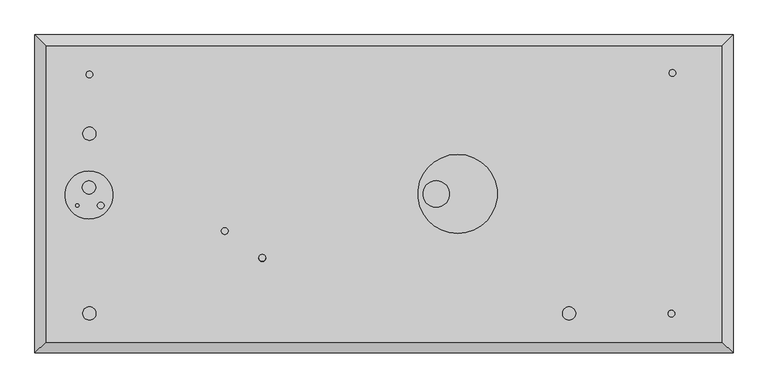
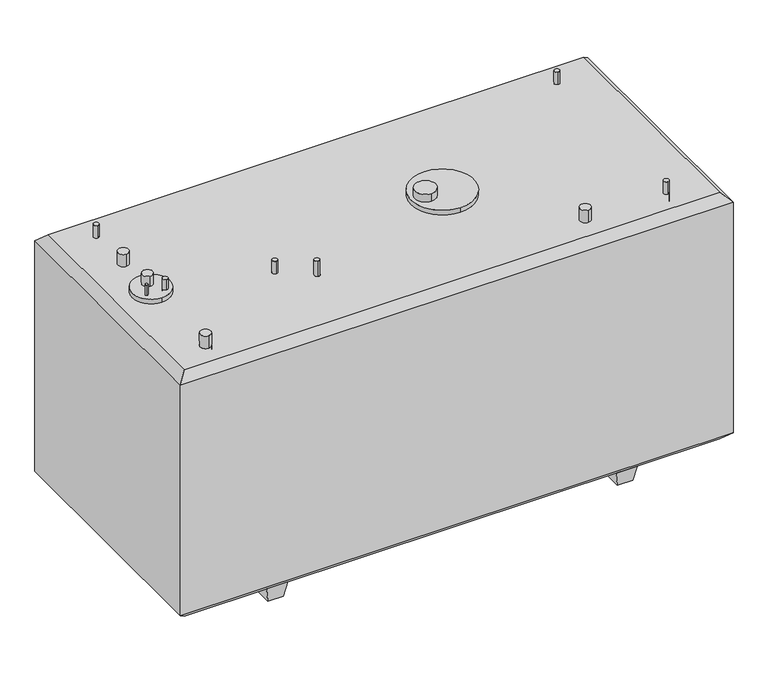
"""IFC4 building model written with IfcOpenShell, lengths in millimetres: proxy geometry, Convault Tank Family 88153044 : Convault Tank Family 88153044."""

import ifcopenshell
import ifcopenshell.guid

model = None  # the IFC model being written
_history = None  # IfcOwnerHistory: only IFC2X3 demands one
_inside = {}  # id of a spatial element -> (the spatial element, [elements in it])
_under = {}  # id of a project, library or spatial element -> (it, [spatial elements below it])
_declared = {}  # id of a project -> (the project, [libraries it declares])
_typed = {}  # id of a type object -> (the type object, [elements of that type])
_made_of = {}  # id of a material, layer set ... -> (it, [elements and type objects made of it])


def new_model(schema):
    """Start an empty IFC model of exactly this schema.

    Asked for "IFC4X3", IfcOpenShell would pick the latest addendum, in which some entities
    have other attributes; the version numbers below select the first issue.
    IFC2X3 requires an IfcOwnerHistory on every rooted entity: one is made here for all.
    """
    global model, _history
    if schema == "IFC4X3":
        model = ifcopenshell.file(schema_version=(4, 3, 0, 0))
    else:
        model = ifcopenshell.file(schema=schema)
    _inside.clear()
    _under.clear()
    _declared.clear()
    _typed.clear()
    _made_of.clear()
    _history = None
    if model.schema == "IFC2X3":
        org = make("IfcOrganization", Name="unknown")
        user = make(
            "IfcPersonAndOrganization",
            ThePerson=make("IfcPerson", FamilyName="unknown"),
            TheOrganization=org,
        )
        app = make(
            "IfcApplication",
            ApplicationDeveloper=org,
            Version="unknown",
            ApplicationFullName="unknown",
            ApplicationIdentifier="unknown",
        )
        _history = make(
            "IfcOwnerHistory",
            OwningUser=user,
            OwningApplication=app,
            ChangeAction="ADDED",
            CreationDate=0,
        )
    return model


def make(cls, **values):
    """One entity of the class cls with the attributes given. An attribute that is None is left unset."""
    return model.create_entity(
        cls, **{name: value for name, value in values.items() if value is not None}
    )


def rooted(cls, **values):
    """An entity with a GlobalId (a new one), such as an element, a storey or a relation."""
    return make(cls, GlobalId=ifcopenshell.guid.new(), OwnerHistory=_history, **values)


def si_unit(unit_type, name, prefix=None):
    """IfcSIUnit, for example si_unit("LENGTHUNIT", "METRE", prefix="MILLI")."""
    return make("IfcSIUnit", UnitType=unit_type, Prefix=prefix, Name=name)


def assignment(units):
    """IfcUnitAssignment: the units of a project."""
    return None if units is None else make("IfcUnitAssignment", Units=units)


def point(xyz):
    """IfcCartesianPoint."""
    return None if xyz is None else make("IfcCartesianPoint", Coordinates=xyz)


def direction(xyz):
    """IfcDirection."""
    return None if xyz is None else make("IfcDirection", DirectionRatios=xyz)


def frame(location, z_axis=None, x_axis=None):
    """IfcAxis2Placement3D, a coordinate frame: its origin and axes. An axis left out is left unset."""
    return make(
        "IfcAxis2Placement3D",
        Location=point(location),
        Axis=direction(z_axis),
        RefDirection=direction(x_axis),
    )


def frame_2d(location, x_axis=None):
    """IfcAxis2Placement2D, a coordinate frame in the plane: its origin and x axis."""
    return make(
        "IfcAxis2Placement2D", Location=point(location), RefDirection=direction(x_axis)
    )


def origin():
    """The frame at (0, 0, 0) with its axes left unset."""
    return frame((0.0, 0.0, 0.0))


def place(relative_to, where):
    """IfcLocalPlacement: puts the frame where relative to a parent placement (None: the world)."""
    return make(
        "IfcLocalPlacement", PlacementRelTo=relative_to, RelativePlacement=where
    )


def context(
    kind, dimensions, precision=None, world=None, true_north=None, identifier=None
):
    """IfcGeometricRepresentationContext, for example the 3D "Model" context."""
    return make(
        "IfcGeometricRepresentationContext",
        ContextIdentifier=identifier,
        ContextType=kind,
        CoordinateSpaceDimension=dimensions,
        Precision=precision,
        WorldCoordinateSystem=world,
        TrueNorth=true_north,
    )


def project(units=None, contexts=None):
    """IfcProject with its units and contexts."""
    return rooted(
        "IfcProject",
        Name="project",
        RepresentationContexts=contexts,
        UnitsInContext=assignment(units),
    )


def spatial(cls, under=None, at=None, **own):
    """A site, building, storey or space (cls), placed at a placement, below another one or the project."""
    s = rooted(cls, ObjectPlacement=at, **own)
    if under is not None:
        _under.setdefault(under.id(), (under, []))[1].append(s)
    return s


def polyline(points):
    """IfcPolyline through the points."""
    return make("IfcPolyline", Points=[point(p) for p in points])


def circle_curve(where, radius):
    """IfcCircle in the frame where."""
    return make("IfcCircle", Position=where, Radius=radius)


def trimmed(basis, trim1, trim2, sense, master):
    """IfcTrimmedCurve: the piece of a basis curve between two trims."""
    return make(
        "IfcTrimmedCurve",
        BasisCurve=basis,
        Trim1=trim1,
        Trim2=trim2,
        SenseAgreement=sense,
        MasterRepresentation=master,
    )


def segment(curve, same_sense, transition):
    """IfcCompositeCurveSegment."""
    return make(
        "IfcCompositeCurveSegment",
        Transition=transition,
        SameSense=same_sense,
        ParentCurve=curve,
    )


def composite_curve(segments, self_intersect=None):
    """IfcCompositeCurve: segments joined end to end."""
    return make("IfcCompositeCurve", Segments=segments, SelfIntersect=self_intersect)


def outline(outer, holes=None, kind="AREA"):
    """IfcArbitraryClosedProfileDef: a profile drawn as a closed curve; with holes, ...WithVoids."""
    if holes is None:
        return make("IfcArbitraryClosedProfileDef", ProfileType=kind, OuterCurve=outer)
    return make(
        "IfcArbitraryProfileDefWithVoids",
        ProfileType=kind,
        OuterCurve=outer,
        InnerCurves=holes,
    )


def extrude(swept, where, along, depth):
    """IfcExtrudedAreaSolid: the profile swept, set in the frame where, extruded along a direction by depth."""
    return make(
        "IfcExtrudedAreaSolid",
        SweptArea=swept,
        Position=where,
        ExtrudedDirection=direction(along),
        Depth=depth,
    )


def faces_of(points, faces, orient=None, outer=None):
    """IfcFace entities. A face is a list of loops; a loop is a list of indices into points, from 0.

    orient and outer hold one flag for each loop. By default every Orientation is true, the
    first loop of a face is its IfcFaceOuterBound and the others are IfcFaceBound.
    """
    made = []
    for i, loops in enumerate(faces):
        bounds = []
        for j, loop in enumerate(loops):
            is_outer = j == 0 if outer is None else outer[i][j]
            bounds.append(
                make(
                    "IfcFaceOuterBound" if is_outer else "IfcFaceBound",
                    Bound=make("IfcPolyLoop", Polygon=[points[k] for k in loop]),
                    Orientation=True if orient is None else orient[i][j],
                )
            )
        made.append(make("IfcFace", Bounds=bounds))
    return made


def faceted_brep(points, faces, orient=None, outer=None, voids=None):
    """IfcFacetedBrep: a solid bounded by flat faces; with voids (closed shells), ...WithVoids."""
    shared = [point(p) for p in points]
    hull = make("IfcClosedShell", CfsFaces=faces_of(shared, faces, orient, outer))
    if voids is None:
        return make("IfcFacetedBrep", Outer=hull)
    return make(
        "IfcFacetedBrepWithVoids",
        Outer=hull,
        Voids=[
            make(cls, CfsFaces=faces_of(shared, fs, o, b)) for cls, fs, o, b in voids
        ],
    )


def shape(context_of_items, identifier, shape_type, items):
    """IfcShapeRepresentation: the items that make up one representation, for example the "Body"."""
    return make(
        "IfcShapeRepresentation",
        ContextOfItems=context_of_items,
        RepresentationIdentifier=identifier,
        RepresentationType=shape_type,
        Items=items,
    )


def source(mapping_origin, context_of_items, identifier, shape_type, items):
    """IfcRepresentationMap: a shape defined once, which mapped items show again and again."""
    return make(
        "IfcRepresentationMap",
        MappingOrigin=mapping_origin,
        MappedRepresentation=shape(context_of_items, identifier, shape_type, items),
    )


def transform(
    local_origin,
    x_axis=None,
    y_axis=None,
    z_axis=None,
    scale=None,
    scale2=None,
    scale3=None,
    uniform=True,
):
    """IfcCartesianTransformationOperator3D, or its non-uniform kind. x_axis, y_axis, z_axis: its Axis1, 2, 3."""
    if uniform:
        return make(
            "IfcCartesianTransformationOperator3D",
            Axis1=direction(x_axis),
            Axis2=direction(y_axis),
            LocalOrigin=point(local_origin),
            Scale=scale,
            Axis3=direction(z_axis),
        )
    return make(
        "IfcCartesianTransformationOperator3DnonUniform",
        Axis1=direction(x_axis),
        Axis2=direction(y_axis),
        LocalOrigin=point(local_origin),
        Scale=scale,
        Axis3=direction(z_axis),
        Scale2=scale2,
        Scale3=scale3,
    )


def mapped(mapping_source, mapping_target):
    """IfcMappedItem: shows the shape of a source again, moved by a transform."""
    return make(
        "IfcMappedItem", MappingSource=mapping_source, MappingTarget=mapping_target
    )


def made_of(thing, what):
    """Note that an element or type object is made of a material, layer set ...; save() writes the relation."""
    if what is not None:
        _made_of.setdefault(what.id(), (what, []))[1].append(thing)
    return thing


def element(
    cls,
    number,
    at=None,
    inside=None,
    cuts=None,
    type_object=None,
    material=None,
    context=None,
    identifier="Body",
    shape_type=None,
    held_by="IfcProductDefinitionShape",
    body=None,
    shapes=None,
    **own,
):
    """One element of the class cls, such as IfcWall. Its Tag is "e" and its number.

    at: its placement. inside: the storey or other place that contains it. cuts: it is an
    opening in that element (IfcRelVoidsElement). A single representation is given by context,
    identifier, shape_type and body (its items); several are given by shapes. held_by: the class
    of the entity that holds the representations. save() writes the other relations.
    """
    e = rooted(cls, Tag="e%d" % number, ObjectPlacement=at, **own)
    if body is not None:
        shapes = [shape(context, identifier, shape_type, body)]
    if shapes is not None:
        e.Representation = make(held_by, Representations=shapes)
    if inside is not None:
        _inside.setdefault(inside.id(), (inside, []))[1].append(e)
    if cuts is not None:
        rooted(
            "IfcRelVoidsElement", RelatingBuildingElement=cuts, RelatedOpeningElement=e
        )
    if type_object is not None:
        _typed.setdefault(type_object.id(), (type_object, []))[1].append(e)
    return made_of(e, material)


def aggregate(whole, parts):
    """IfcRelAggregates: a whole, such as a stair, and the parts it consists of."""
    return rooted("IfcRelAggregates", RelatingObject=whole, RelatedObjects=parts)


def save(model, path):
    """Write the relations noted so far, then the file.

    IfcRelAggregates (storeys below a building ...), IfcRelContainedInSpatialStructure (elements
    in a storey), IfcRelDefinesByType, IfcRelAssociatesMaterial and IfcRelDeclares: one each for
    every whole, place, type object, material and project.
    """
    for whole, parts in _under.values():
        aggregate(whole, parts)
    for where, things in _inside.values():
        rooted(
            "IfcRelContainedInSpatialStructure",
            RelatedElements=things,
            RelatingStructure=where,
        )
    for kind, things in _typed.values():
        rooted("IfcRelDefinesByType", RelatedObjects=things, RelatingType=kind)
    for what, things in _made_of.values():
        rooted("IfcRelAssociatesMaterial", RelatedObjects=things, RelatingMaterial=what)
    for by, libraries in _declared.values():
        rooted("IfcRelDeclares", RelatingContext=by, RelatedDefinitions=libraries)
    model.write(path)


def plane_surface(at):
    """IfcPlane: the flat surface through the origin of the frame at, square to its z axis."""
    return make("IfcPlane", Position=at)


def cylinder_surface(at, radius):
    """IfcCylindricalSurface: all points at the distance radius from the z axis of the frame at."""
    return make("IfcCylindricalSurface", Position=at, Radius=radius)


def revolved_surface(curve, axis_point, axis_direction):
    """IfcSurfaceOfRevolution: the curve turned about the line through axis_point along axis_direction."""
    return make(
        "IfcSurfaceOfRevolution",
        SweptCurve=make("IfcArbitraryOpenProfileDef", ProfileType="CURVE", Curve=curve),
        AxisPosition=make("IfcAxis1Placement", Location=point(axis_point), Axis=direction(axis_direction)),
    )


def advanced_brep(points, edges, surfaces, faces):
    """IfcAdvancedBrep: a solid bounded by faces that lie on surfaces and meet in shared edges.

    An edge is (start, end): straight between two places in points (the first is 0);
    or (start, end, curve); or (start, end, curve, False) where it runs against its curve.
    A face is (place in surfaces, loops), or (place, loops, False) where it looks against
    its surface's normal. A loop lists edges by number (the first is 1), with a minus sign
    where the edge is run from its end to its start. The first loop is the outer one.
    """
    corners = [point(p) for p in points]
    vertices = [make("IfcVertexPoint", VertexGeometry=c) for c in corners]
    made = []
    for start, end, *more in edges:
        made.append(
            make(
                "IfcEdgeCurve",
                EdgeStart=vertices[start],
                EdgeEnd=vertices[end],
                EdgeGeometry=more[0] if more else make("IfcPolyline", Points=[corners[start], corners[end]]),
                SameSense=more[1] if len(more) > 1 else True,
            )
        )
    hull = []
    for where, loops, *sense in faces:
        bounds = []
        for j, loop in enumerate(loops):
            ring = [make("IfcOrientedEdge", EdgeElement=made[abs(k) - 1], Orientation=k > 0) for k in loop]
            bounds.append(
                make(
                    "IfcFaceOuterBound" if j == 0 else "IfcFaceBound",
                    Bound=make("IfcEdgeLoop", EdgeList=ring),
                    Orientation=True,
                )
            )
        hull.append(make("IfcAdvancedFace", Bounds=bounds, FaceSurface=surfaces[where], SameSense=sense[0] if sense else True))
    return make("IfcAdvancedBrep", Outer=make("IfcClosedShell", CfsFaces=hull))


def generic_models_9c2a263e(model_context):
    return source(origin(), model_context, "Body", "SolidModel", [
        extrude(outline(composite_curve([segment(trimmed(circle_curve(frame_2d((-2270.125, -7.9375)), 184.15), [point((-2270.125, 176.2125))], [point((-2270.125, -192.0875))], False, "CARTESIAN"), True, "CONTINUOUS"), segment(trimmed(circle_curve(frame_2d((-2270.125, -7.9375)), 184.15), [point((-2270.125, -192.0875))], [point((-2270.125, 176.2125))], False, "CARTESIAN"), True, "CONTINUOUS")], self_intersect=False)), frame((0.0, 0.0, 2508.25), z_axis=(0.0, 0.0, 1.0), x_axis=(1.0, 0.0, 0.0)), (0.0, 0.0, 1.0), 224.7090569),
        extrude(outline(composite_curve([segment(trimmed(circle_curve(frame_2d((566.7375, 0.0)), 304.8), [point((566.7375, 304.8))], [point((566.7375, -304.8))], False, "CARTESIAN"), True, "CONTINUOUS"), segment(trimmed(circle_curve(frame_2d((566.7375, 0.0)), 304.8), [point((566.7375, -304.8))], [point((566.7375, 304.8))], False, "CARTESIAN"), True, "CONTINUOUS")], self_intersect=False)), frame((0.0, 0.0, 2508.25), z_axis=(0.0, 0.0, 1.0), x_axis=(1.0, 0.0, 0.0)), (0.0, 0.0, 1.0), 224.7090569),
        advanced_brep(
        [(-936.625, -517.525, 2838.45), (-936.625, -466.725, 2838.45), (-961.9420956, -494.175529, 2508.25), (-936.625, -466.725, 2508.25), (-911.3079044, -494.175529, 2508.25), (-936.625, -470.8260581, 2508.25), (-936.625, -517.525, 2686.05), (-911.3079044, -494.175529, 2686.05), (-961.9420956, -494.175529, 2686.05), (-936.625, -470.8260581, 2686.05)],
        [
            (0, 1, circle_curve(frame((-936.625, -492.125, 2838.45), z_axis=(0.0, 0.0, 1.0), x_axis=(0.0, 1.0, 0.0)), 25.4)),
            (1, 0, circle_curve(frame((-936.625, -492.125, 2838.45), z_axis=(0.0, 0.0, 1.0), x_axis=(0.0, 1.0, 0.0)), 25.4)),
            (2, 3, circle_curve(frame((-936.625, -492.125, 2508.25), z_axis=(0.0, 0.0, -1.0), x_axis=(0.0, 1.0, 0.0)), 25.4)),
            (3, 4, circle_curve(frame((-936.625, -492.125, 2508.25), z_axis=(0.0, 0.0, -1.0), x_axis=(0.0, 1.0, 0.0)), 25.4)),
            (4, 5, circle_curve(frame((-936.625, -496.2260581, 2508.25), z_axis=(0.0, 0.0, 1.0), x_axis=(0.0, -1.0, 0.0)), 25.4)),
            (5, 2, circle_curve(frame((-936.625, -496.2260581, 2508.25), z_axis=(0.0, 0.0, 1.0), x_axis=(0.0, -1.0, 0.0)), 25.4)),
            (0, 6),
            (6, 7, circle_curve(frame((-936.625, -492.125, 2686.05), z_axis=(0.0, 0.0, 1.0), x_axis=(0.0, 1.0, 0.0)), 25.4)),
            (7, 4),
            (3, 1),
            (2, 8),
            (8, 6, circle_curve(frame((-936.625, -492.125, 2686.05), z_axis=(0.0, 0.0, 1.0), x_axis=(0.0, 1.0, 0.0)), 25.4)),
            (9, 7, circle_curve(frame((-936.625, -496.2260581, 2686.05), z_axis=(0.0, 0.0, -1.0), x_axis=(0.0, -1.0, 0.0)), 25.4)),
            (8, 9, circle_curve(frame((-936.625, -496.2260581, 2686.05), z_axis=(0.0, 0.0, -1.0), x_axis=(0.0, -1.0, 0.0)), 25.4)),
            (5, 9),
        ],
        [
            plane_surface(frame((-936.625, -466.725, 2838.45), z_axis=(0.0, 0.0, 1.0), x_axis=(-1.0, 0.0, 0.0))),
            plane_surface(frame((-936.625, -466.725, 2508.25), z_axis=(0.0, 0.0, -1.0), x_axis=(1.0, 0.0, 0.0))),
            cylinder_surface(frame((-936.625, -492.125, 2508.25), z_axis=(0.0, 0.0, 1.0), x_axis=(0.0, 1.0, 0.0)), 25.4),
            plane_surface(frame((-2266.95, 895.35, 2686.05), z_axis=(0.0, 0.0, -1.0), x_axis=(1.0, 0.0, 0.0))),
            revolved_surface(polyline([(-936.625, -521.6260581, 2686.05), (-936.625, -521.6260581, 2508.25)]), (-936.625, -496.2260581, 2508.25), (0.0, 0.0, 1.0)),
        ],
        [
            (0, [[1, 2]]),
            (1, [[3, 4, 5, 6]]),
            (2, [[-1, 7, 8, 9, -4, 10]]),
            (2, [[-2, -10, -3, 11, 12, -7]]),
            (3, [[13, -8, -12, 14]]),
            (4, [[15, -14, -11, -6]]),
            (4, [[-15, -5, -9, -13]]),
        ],
    ),
        advanced_brep(
        [(-2266.95, 946.15, 2813.05), (-2266.95, 895.35, 2813.05), (-2266.95, 946.15, 2686.05), (-2266.95, 895.35, 2686.05)],
        [
            (0, 1, circle_curve(frame((-2266.95, 920.75, 2813.05), z_axis=(0.0, 0.0, 1.0), x_axis=(0.0, -1.0, 0.0)), 25.4)),
            (1, 0, circle_curve(frame((-2266.95, 920.75, 2813.05), z_axis=(0.0, 0.0, 1.0), x_axis=(0.0, -1.0, 0.0)), 25.4)),
            (0, 2),
            (2, 3, circle_curve(frame((-2266.95, 920.75, 2686.05), z_axis=(0.0, 0.0, 1.0), x_axis=(0.0, -1.0, 0.0)), 25.4)),
            (3, 1),
            (3, 2, circle_curve(frame((-2266.95, 920.75, 2686.05), z_axis=(0.0, 0.0, 1.0), x_axis=(0.0, -1.0, 0.0)), 25.4)),
        ],
        [
            plane_surface(frame((-2266.95, 895.35, 2813.05), z_axis=(0.0, 0.0, 1.0), x_axis=(1.0, 0.0, 0.0))),
            cylinder_surface(frame((-2266.95, 920.75, 2508.25), z_axis=(0.0, 0.0, 1.0), x_axis=(0.0, -1.0, 0.0)), 25.4),
            plane_surface(frame((-2266.95, 895.35, 2686.05), z_axis=(0.0, 0.0, -1.0), x_axis=(1.0, 0.0, 0.0))),
        ],
        [
            (0, [[1, 2]]),
            (1, [[-1, 3, 4, 5]]),
            (1, [[-2, -5, 6, -3]]),
            (2, [[-4, -6]]),
        ],
    ),
        advanced_brep(
        [(-2266.95, 514.35, 2813.05), (-2266.95, 412.75, 2813.05), (-2266.95, 514.35, 2686.05), (-2266.95, 412.75, 2686.05)],
        [
            (0, 1, circle_curve(frame((-2266.95, 463.55, 2813.05), z_axis=(0.0, 0.0, 1.0), x_axis=(0.0, -1.0, 0.0)), 50.8)),
            (1, 0, circle_curve(frame((-2266.95, 463.55, 2813.05), z_axis=(0.0, 0.0, 1.0), x_axis=(0.0, -1.0, 0.0)), 50.8)),
            (0, 2),
            (2, 3, circle_curve(frame((-2266.95, 463.55, 2686.05), z_axis=(0.0, 0.0, 1.0), x_axis=(0.0, -1.0, 0.0)), 50.8)),
            (3, 1),
            (3, 2, circle_curve(frame((-2266.95, 463.55, 2686.05), z_axis=(0.0, 0.0, 1.0), x_axis=(0.0, -1.0, 0.0)), 50.8)),
        ],
        [
            plane_surface(frame((-2266.95, 895.35, 2813.05), z_axis=(0.0, 0.0, 1.0), x_axis=(1.0, 0.0, 0.0))),
            cylinder_surface(frame((-2266.95, 463.55, 2508.25), z_axis=(0.0, 0.0, 1.0), x_axis=(0.0, -1.0, 0.0)), 50.8),
            plane_surface(frame((-2266.95, 895.35, 2686.05), z_axis=(0.0, 0.0, -1.0), x_axis=(1.0, 0.0, 0.0))),
        ],
        [
            (0, [[1, 2]]),
            (1, [[-1, 3, 4, 5]]),
            (1, [[-2, -5, 6, -3]]),
            (2, [[-4, -6]]),
        ],
    ),
        advanced_brep(
        [(-2266.95, -869.95, 2813.05), (-2266.95, -971.55, 2813.05), (-2266.95, -869.95, 2686.05), (-2266.95, -971.55, 2686.05)],
        [
            (0, 1, circle_curve(frame((-2266.95, -920.75, 2813.05), z_axis=(0.0, 0.0, 1.0), x_axis=(0.0, -1.0, 0.0)), 50.8)),
            (1, 0, circle_curve(frame((-2266.95, -920.75, 2813.05), z_axis=(0.0, 0.0, 1.0), x_axis=(0.0, -1.0, 0.0)), 50.8)),
            (0, 2),
            (2, 3, circle_curve(frame((-2266.95, -920.75, 2686.05), z_axis=(0.0, 0.0, 1.0), x_axis=(0.0, -1.0, 0.0)), 50.8)),
            (3, 1),
            (3, 2, circle_curve(frame((-2266.95, -920.75, 2686.05), z_axis=(0.0, 0.0, 1.0), x_axis=(0.0, -1.0, 0.0)), 50.8)),
        ],
        [
            plane_surface(frame((-2266.95, 895.35, 2813.05), z_axis=(0.0, 0.0, 1.0), x_axis=(1.0, 0.0, 0.0))),
            cylinder_surface(frame((-2266.95, -920.75, 2508.25), z_axis=(0.0, 0.0, 1.0), x_axis=(0.0, -1.0, 0.0)), 50.8),
            plane_surface(frame((-2266.95, 895.35, 2686.05), z_axis=(0.0, 0.0, -1.0), x_axis=(1.0, 0.0, 0.0))),
        ],
        [
            (0, [[1, 2]]),
            (1, [[-1, 3, 4, 5]]),
            (1, [[-2, -5, 6, -3]]),
            (2, [[-4, -6]]),
        ],
    ),
        advanced_brep(
        [(-1225.55, -260.35, 2813.05), (-1225.55, -311.15, 2813.05), (-1225.55, -260.35, 2686.05), (-1225.55, -311.15, 2686.05)],
        [
            (0, 1, circle_curve(frame((-1225.55, -285.75, 2813.05), z_axis=(0.0, 0.0, 1.0), x_axis=(0.0, -1.0, 0.0)), 25.4)),
            (1, 0, circle_curve(frame((-1225.55, -285.75, 2813.05), z_axis=(0.0, 0.0, 1.0), x_axis=(0.0, -1.0, 0.0)), 25.4)),
            (0, 2),
            (2, 3, circle_curve(frame((-1225.55, -285.75, 2686.05), z_axis=(0.0, 0.0, 1.0), x_axis=(0.0, -1.0, 0.0)), 25.4)),
            (3, 1),
            (3, 2, circle_curve(frame((-1225.55, -285.75, 2686.05), z_axis=(0.0, 0.0, 1.0), x_axis=(0.0, -1.0, 0.0)), 25.4)),
        ],
        [
            plane_surface(frame((-2266.95, 895.35, 2813.05), z_axis=(0.0, 0.0, 1.0), x_axis=(1.0, 0.0, 0.0))),
            cylinder_surface(frame((-1225.55, -285.75, 2508.25), z_axis=(0.0, 0.0, 1.0), x_axis=(0.0, -1.0, 0.0)), 25.4),
            plane_surface(frame((-2266.95, 895.35, 2686.05), z_axis=(0.0, 0.0, -1.0), x_axis=(1.0, 0.0, 0.0))),
        ],
        [
            (0, [[1, 2]]),
            (1, [[-1, 3, 4, 5]]),
            (1, [[-2, -5, 6, -3]]),
            (2, [[-4, -6]]),
        ],
    ),
        advanced_brep(
        [(401.6375, 101.6, 2813.05), (401.6375, -101.6, 2813.05), (401.6375, 101.6, 2686.05), (401.6375, -101.6, 2686.05)],
        [
            (0, 1, circle_curve(frame((401.6375, 0.0, 2813.05), z_axis=(0.0, 0.0, 1.0), x_axis=(0.0, -1.0, 0.0)), 101.6)),
            (1, 0, circle_curve(frame((401.6375, 0.0, 2813.05), z_axis=(0.0, 0.0, 1.0), x_axis=(0.0, -1.0, 0.0)), 101.6)),
            (0, 2),
            (2, 3, circle_curve(frame((401.6375, 0.0, 2686.05), z_axis=(0.0, 0.0, 1.0), x_axis=(0.0, -1.0, 0.0)), 101.6)),
            (3, 1),
            (3, 2, circle_curve(frame((401.6375, 0.0, 2686.05), z_axis=(0.0, 0.0, 1.0), x_axis=(0.0, -1.0, 0.0)), 101.6)),
        ],
        [
            plane_surface(frame((-2266.95, 895.35, 2813.05), z_axis=(0.0, 0.0, 1.0), x_axis=(1.0, 0.0, 0.0))),
            cylinder_surface(frame((401.6375, 0.0, 2508.25), z_axis=(0.0, 0.0, 1.0), x_axis=(0.0, -1.0, 0.0)), 101.6),
            plane_surface(frame((-2266.95, 895.35, 2686.05), z_axis=(0.0, 0.0, -1.0), x_axis=(1.0, 0.0, 0.0))),
        ],
        [
            (0, [[1, 2]]),
            (1, [[-1, 3, 4, 5]]),
            (1, [[-2, -5, 6, -3]]),
            (2, [[-4, -6]]),
        ],
    ),
        advanced_brep(
        [(1423.9875, -869.95, 2813.05), (1423.9875, -971.55, 2813.05), (1423.9875, -869.95, 2686.05), (1423.9875, -971.55, 2686.05)],
        [
            (0, 1, circle_curve(frame((1423.9875, -920.75, 2813.05), z_axis=(0.0, 0.0, 1.0), x_axis=(0.0, -1.0, 0.0)), 50.8)),
            (1, 0, circle_curve(frame((1423.9875, -920.75, 2813.05), z_axis=(0.0, 0.0, 1.0), x_axis=(0.0, -1.0, 0.0)), 50.8)),
            (0, 2),
            (2, 3, circle_curve(frame((1423.9875, -920.75, 2686.05), z_axis=(0.0, 0.0, 1.0), x_axis=(0.0, -1.0, 0.0)), 50.8)),
            (3, 1),
            (3, 2, circle_curve(frame((1423.9875, -920.75, 2686.05), z_axis=(0.0, 0.0, 1.0), x_axis=(0.0, -1.0, 0.0)), 50.8)),
        ],
        [
            plane_surface(frame((-2266.95, 895.35, 2813.05), z_axis=(0.0, 0.0, 1.0), x_axis=(1.0, 0.0, 0.0))),
            cylinder_surface(frame((1423.9875, -920.75, 2508.25), z_axis=(0.0, 0.0, 1.0), x_axis=(0.0, -1.0, 0.0)), 50.8),
            plane_surface(frame((-2266.95, 895.35, 2686.05), z_axis=(0.0, 0.0, -1.0), x_axis=(1.0, 0.0, 0.0))),
        ],
        [
            (0, [[1, 2]]),
            (1, [[-1, 3, 4, 5]]),
            (1, [[-2, -5, 6, -3]]),
            (2, [[-4, -6]]),
        ],
    ),
        advanced_brep(
        [(2211.3875, -896.9375, 2813.05), (2211.3875, -947.7375, 2813.05), (2236.7692054, -921.3736373, 2508.25), (2211.3875, -947.7375, 2508.25), (2186.0057946, -921.3736373, 2508.25), (2211.3875, -945.8097746, 2508.25), (2236.7692054, -921.3736373, 2686.05), (2211.3875, -945.8097746, 2686.05), (2186.0057946, -921.3736373, 2686.05), (2211.3875, -896.9375, 2686.05)],
        [
            (0, 1, circle_curve(frame((2211.3875, -922.3375, 2813.05), z_axis=(0.0, 0.0, 1.0), x_axis=(0.0, -1.0, 0.0)), 25.4)),
            (1, 0, circle_curve(frame((2211.3875, -922.3375, 2813.05), z_axis=(0.0, 0.0, 1.0), x_axis=(0.0, -1.0, 0.0)), 25.4)),
            (2, 3, circle_curve(frame((2211.3875, -922.3375, 2508.25), z_axis=(0.0, 0.0, -1.0), x_axis=(0.0, -1.0, 0.0)), 25.4)),
            (3, 4, circle_curve(frame((2211.3875, -922.3375, 2508.25), z_axis=(0.0, 0.0, -1.0), x_axis=(0.0, -1.0, 0.0)), 25.4)),
            (4, 5, circle_curve(frame((2211.3875, -920.4097746, 2508.25), z_axis=(0.0, 0.0, 1.0), x_axis=(0.0, -1.0, 0.0)), 25.4)),
            (5, 2, circle_curve(frame((2211.3875, -920.4097746, 2508.25), z_axis=(0.0, 0.0, 1.0), x_axis=(0.0, -1.0, 0.0)), 25.4)),
            (6, 7, circle_curve(frame((2211.3875, -920.4097746, 2686.05), z_axis=(0.0, 0.0, -1.0), x_axis=(0.0, -1.0, 0.0)), 25.4)),
            (7, 8, circle_curve(frame((2211.3875, -920.4097746, 2686.05), z_axis=(0.0, 0.0, -1.0), x_axis=(0.0, -1.0, 0.0)), 25.4)),
            (8, 9, circle_curve(frame((2211.3875, -922.3375, 2686.05), z_axis=(0.0, 0.0, -1.0), x_axis=(0.0, -1.0, 0.0)), 25.4)),
            (9, 6, circle_curve(frame((2211.3875, -922.3375, 2686.05), z_axis=(0.0, 0.0, -1.0), x_axis=(0.0, -1.0, 0.0)), 25.4)),
            (0, 9),
            (8, 4),
            (3, 1),
            (2, 6),
            (7, 5),
        ],
        [
            plane_surface(frame((-2266.95, 895.35, 2813.05), z_axis=(0.0, 0.0, 1.0), x_axis=(1.0, 0.0, 0.0))),
            plane_surface(frame((-2266.95, 895.35, 2508.25), z_axis=(0.0, 0.0, -1.0), x_axis=(-1.0, 0.0, 0.0))),
            plane_surface(frame((-2266.95, 895.35, 2686.05), z_axis=(0.0, 0.0, -1.0), x_axis=(1.0, 0.0, 0.0))),
            cylinder_surface(frame((2211.3875, -922.3375, 2508.25), z_axis=(0.0, 0.0, 1.0), x_axis=(0.0, -1.0, 0.0)), 25.4),
            revolved_surface(polyline([(2211.3875, -945.8097746, 2686.05), (2211.3875, -945.8097746, 2508.25)]), (2211.3875, -920.4097746, 2508.25), (0.0, 0.0, 1.0)),
        ],
        [
            (0, [[1, 2]]),
            (1, [[3, 4, 5, 6]]),
            (2, [[7, 8, 9, 10]]),
            (3, [[-1, 11, -9, 12, -4, 13]]),
            (3, [[-2, -13, -3, 14, -10, -11]]),
            (4, [[15, -5, -12, -8]]),
            (4, [[-15, -7, -14, -6]]),
        ],
    ),
        advanced_brep(
        [(2219.325, 957.2625, 2813.05), (2219.325, 906.4625, 2813.05), (2219.325, 957.2625, 2508.25), (2219.325, 906.4625, 2508.25)],
        [
            (0, 1, circle_curve(frame((2219.325, 931.8625, 2813.05), z_axis=(0.0, 0.0, 1.0), x_axis=(0.0, -1.0, 0.0)), 25.4)),
            (1, 0, circle_curve(frame((2219.325, 931.8625, 2813.05), z_axis=(0.0, 0.0, 1.0), x_axis=(0.0, -1.0, 0.0)), 25.4)),
            (2, 3, circle_curve(frame((2219.325, 931.8625, 2508.25), z_axis=(0.0, 0.0, -1.0), x_axis=(0.0, -1.0, 0.0)), 25.4)),
            (3, 2, circle_curve(frame((2219.325, 931.8625, 2508.25), z_axis=(0.0, 0.0, -1.0), x_axis=(0.0, -1.0, 0.0)), 25.4)),
            (0, 2),
            (3, 1),
        ],
        [
            plane_surface(frame((-2266.95, 895.35, 2813.05), z_axis=(0.0, 0.0, 1.0), x_axis=(1.0, 0.0, 0.0))),
            plane_surface(frame((-2266.95, 895.35, 2508.25), z_axis=(0.0, 0.0, -1.0), x_axis=(-1.0, 0.0, 0.0))),
            cylinder_surface(frame((2219.325, 931.8625, 2508.25), z_axis=(0.0, 0.0, 1.0), x_axis=(0.0, -1.0, 0.0)), 25.4),
        ],
        [
            (0, [[1, 2]]),
            (1, [[3, 4]]),
            (2, [[-1, 5, -4, 6]]),
            (2, [[-2, -6, -3, -5]]),
        ],
    ),
        extrude(outline(polyline([(2533.65, 1073.15), (2533.65, -1073.15), (-2533.65, -1073.15), (-2533.65, 1073.15), (2533.65, 1073.15)]), holes=[composite_curve([segment(trimmed(circle_curve(frame_2d((-2266.95, 920.75)), 25.4), [point((-2266.95, 946.15))], [point((-2266.95, 895.35))], True, "CARTESIAN"), True, "CONTINUOUS"), segment(trimmed(circle_curve(frame_2d((-2266.95, 920.75)), 25.4), [point((-2266.95, 895.35))], [point((-2266.95, 946.15))], True, "CARTESIAN"), True, "CONTINUOUS")], self_intersect=False), composite_curve([segment(trimmed(circle_curve(frame_2d((-2266.95, 463.55)), 50.8), [point((-2266.95, 514.35))], [point((-2266.95, 412.75))], True, "CARTESIAN"), True, "CONTINUOUS"), segment(trimmed(circle_curve(frame_2d((-2266.95, 463.55)), 50.8), [point((-2266.95, 412.75))], [point((-2266.95, 514.35))], True, "CARTESIAN"), True, "CONTINUOUS")], self_intersect=False), composite_curve([segment(trimmed(circle_curve(frame_2d((-2266.95, -920.75)), 50.8), [point((-2266.95, -869.95))], [point((-2266.95, -971.55))], True, "CARTESIAN"), True, "CONTINUOUS"), segment(trimmed(circle_curve(frame_2d((-2266.95, -920.75)), 50.8), [point((-2266.95, -971.55))], [point((-2266.95, -869.95))], True, "CARTESIAN"), True, "CONTINUOUS")], self_intersect=False), composite_curve([segment(trimmed(circle_curve(frame_2d((-1225.55, -285.75)), 25.4), [point((-1225.55, -260.35))], [point((-1225.55, -311.15))], True, "CARTESIAN"), True, "CONTINUOUS"), segment(trimmed(circle_curve(frame_2d((-1225.55, -285.75)), 25.4), [point((-1225.55, -311.15))], [point((-1225.55, -260.35))], True, "CARTESIAN"), True, "CONTINUOUS")], self_intersect=False), composite_curve([segment(trimmed(circle_curve(frame_2d((401.6375, 0.0)), 101.6), [point((401.6375, 101.6))], [point((401.6375, -101.6))], True, "CARTESIAN"), True, "CONTINUOUS"), segment(trimmed(circle_curve(frame_2d((401.6375, 0.0)), 101.6), [point((401.6375, -101.6))], [point((401.6375, 101.6))], True, "CARTESIAN"), True, "CONTINUOUS")], self_intersect=False), composite_curve([segment(trimmed(circle_curve(frame_2d((1423.9875, -920.75)), 50.8), [point((1423.9875, -869.95))], [point((1423.9875, -971.55))], True, "CARTESIAN"), True, "CONTINUOUS"), segment(trimmed(circle_curve(frame_2d((1423.9875, -920.75)), 50.8), [point((1423.9875, -971.55))], [point((1423.9875, -869.95))], True, "CARTESIAN"), True, "CONTINUOUS")], self_intersect=False), composite_curve([segment(trimmed(circle_curve(frame_2d((-936.625, -496.2260581)), 25.4), [point((-936.625, -470.8260581))], [point((-936.625, -521.6260581))], True, "CARTESIAN"), True, "CONTINUOUS"), segment(trimmed(circle_curve(frame_2d((-936.625, -496.2260581)), 25.4), [point((-936.625, -521.6260581))], [point((-936.625, -470.8260581))], True, "CARTESIAN"), True, "CONTINUOUS")], self_intersect=False), composite_curve([segment(trimmed(circle_curve(frame_2d((2211.3875, -920.4097746)), 25.4), [point((2211.3875, -895.0097746))], [point((2211.3875, -945.8097746))], True, "CARTESIAN"), True, "CONTINUOUS"), segment(trimmed(circle_curve(frame_2d((2211.3875, -920.4097746)), 25.4), [point((2211.3875, -945.8097746))], [point((2211.3875, -895.0097746))], True, "CARTESIAN"), True, "CONTINUOUS")], self_intersect=False)]), frame((0.0, 0.0, 2508.25), z_axis=(0.0, 0.0, 1.0), x_axis=(1.0, 0.0, 0.0)), (0.0, 0.0, 1.0), 25.4),
        extrude(outline(composite_curve([segment(trimmed(circle_curve(frame_2d((-2270.125, 50.8)), 50.8), [point((-2270.125, 101.6))], [point((-2270.125, 0.0))], False, "CARTESIAN"), True, "CONTINUOUS"), segment(trimmed(circle_curve(frame_2d((-2270.125, 50.8)), 50.8), [point((-2270.125, 0.0))], [point((-2270.125, 101.6))], False, "CARTESIAN"), True, "CONTINUOUS")], self_intersect=False)), frame((0.0, 0.0, 2508.25), z_axis=(0.0, 0.0, 1.0), x_axis=(1.0, 0.0, 0.0)), (0.0, 0.0, 1.0), 330.2),
        extrude(outline(composite_curve([segment(trimmed(circle_curve(frame_2d((-2179.2175835, -88.9)), 25.4), [point((-2179.2175835, -63.5))], [point((-2179.2175835, -114.3))], False, "CARTESIAN"), True, "CONTINUOUS"), segment(trimmed(circle_curve(frame_2d((-2179.2175835, -88.9)), 25.4), [point((-2179.2175835, -114.3))], [point((-2179.2175835, -63.5))], False, "CARTESIAN"), True, "CONTINUOUS")], self_intersect=False)), frame((0.0, 0.0, 2508.25), z_axis=(0.0, 0.0, 1.0), x_axis=(1.0, 0.0, 0.0)), (0.0, 0.0, 1.0), 330.2),
        extrude(outline(composite_curve([segment(trimmed(circle_curve(frame_2d((-2359.025, -88.9)), 12.7), [point((-2359.025, -76.2))], [point((-2359.025, -101.6))], False, "CARTESIAN"), True, "CONTINUOUS"), segment(trimmed(circle_curve(frame_2d((-2359.025, -88.9)), 12.7), [point((-2359.025, -101.6))], [point((-2359.025, -76.2))], False, "CARTESIAN"), True, "CONTINUOUS")], self_intersect=False)), frame((0.0, 0.0, 2508.25), z_axis=(0.0, 0.0, 1.0), x_axis=(1.0, 0.0, 0.0)), (0.0, 0.0, 1.0), 330.2),
        extrude(outline(polyline([(2508.25, -1073.15), (2508.25, 1073.15), (2533.65, 1073.15), (2533.65, -1073.15), (2508.25, -1073.15)])), frame((0.0, 0.0, 304.8), z_axis=(0.0, 0.0, 1.0), x_axis=(1.0, 0.0, 0.0)), (0.0, 0.0, 1.0), 2228.85),
        extrude(outline(polyline([(-2533.65, -1073.15), (-2533.65, 1073.15), (-2508.25, 1073.15), (-2508.25, -1073.15), (-2533.65, -1073.15)])), frame((0.0, 0.0, 304.8), z_axis=(0.0, 0.0, 1.0), x_axis=(1.0, 0.0, 0.0)), (0.0, 0.0, 1.0), 2228.85),
        extrude(outline(polyline([(-2533.65, 1073.15), (2533.65, 1073.15), (2533.65, 1047.75), (-2533.65, 1047.75), (-2533.65, 1073.15)])), frame((0.0, 0.0, 304.8), z_axis=(0.0, 0.0, 1.0), x_axis=(1.0, 0.0, 0.0)), (0.0, 0.0, 1.0), 2228.85),
        extrude(outline(polyline([(2533.65, 1073.15), (2533.65, -1073.15), (-2533.65, -1073.15), (-2533.65, 1073.15), (2533.65, 1073.15)])), frame((0.0, 0.0, 304.8), z_axis=(0.0, 0.0, 1.0), x_axis=(1.0, 0.0, 0.0)), (0.0, 0.0, 1.0), 25.4),
        extrude(outline(polyline([(-2533.65, -1047.75), (2533.65, -1047.75), (2533.65, -1073.15), (-2533.65, -1073.15), (-2533.65, -1047.75)])), frame((0.0, 0.0, 304.8), z_axis=(0.0, 0.0, 1.0), x_axis=(1.0, 0.0, 0.0)), (0.0, 0.0, 1.0), 2228.85),
        faceted_brep([(1774.825, 1116.1277681, 0.0), (1774.825, -1116.1277681, 0.0), (1622.576354, -1116.1277681, 0.0), (1622.576354, 1116.1277681, 0.0), (1595.7041221, -1143.0, 152.4), (1595.7041221, 1143.0, 152.4), (1801.8485858, -1143.0, 152.4), (1801.8485858, 1143.0, 152.4)], [[[0, 1, 2, 3]], [[3, 2, 4, 5]], [[5, 4, 6, 7]], [[1, 0, 7, 6]], [[2, 1, 6, 4]], [[0, 3, 5, 7]]]),
        faceted_brep([(-1774.673646, -1116.1277681, 0.0), (-1622.273646, -1116.1277681, 0.0), (-1595.4014142, -1143.0, 152.4), (-1801.5458779, -1143.0, 152.4), (-1622.273646, 1116.1277681, 0.0), (-1774.673646, 1116.1277681, 0.0), (-1801.5458779, 1143.0, 152.4), (-1595.4014142, 1143.0, 152.4)], [[[0, 1, 2, 3]], [[4, 5, 6, 7]], [[4, 1, 0, 5]], [[5, 0, 3, 6]], [[6, 3, 2, 7]], [[1, 4, 7, 2]]]),
        advanced_brep(
        [(-2603.5, 1143.0, 2686.05), (-2603.5, -1143.0, 2686.05), (2603.5, -1143.0, 2686.05), (2603.5, 1143.0, 2686.05), (-2266.95, 895.35, 2686.05), (-2266.95, 946.15, 2686.05), (-2266.95, 412.75, 2686.05), (-2266.95, 514.35, 2686.05), (-2266.95, -971.55, 2686.05), (-2266.95, -869.95, 2686.05), (-1225.55, -311.15, 2686.05), (-1225.55, -260.35, 2686.05), (401.6375, -101.6, 2686.05), (401.6375, 101.6, 2686.05), (1423.9875, -971.55, 2686.05), (1423.9875, -869.95, 2686.05), (-936.625, -521.6260581, 2686.05), (-936.625, -470.8260581, 2686.05), (2211.3875, -945.8097746, 2686.05), (2211.3875, -895.0097746, 2686.05), (-2603.5, -1143.0, 152.4), (-2603.5, 1143.0, 152.4), (2603.5, 1143.0, 152.4), (2603.5, -1143.0, 152.4), (2686.05, 1225.55, 2603.5), (2686.05, 1225.55, 234.95), (-2686.05, 1225.55, 234.95), (-2686.05, 1225.55, 2603.5), (-2686.05, -1225.55, 234.95), (-2686.05, -1225.55, 2603.5), (2686.05, -1225.55, 234.95), (2686.05, -1225.55, 2603.5), (-2533.65, -1073.15, 2533.65), (-2533.65, -1073.15, 304.8), (-2533.65, 1073.15, 304.8), (-2533.65, 1073.15, 2533.65), (2533.65, -1073.15, 2533.65), (2533.65, 1073.15, 2533.65), (2533.65, 1073.15, 304.8), (2533.65, -1073.15, 304.8), (-2266.95, 946.15, 2533.65), (-2266.95, 895.35, 2533.65), (-2266.95, 514.35, 2533.65), (-2266.95, 412.75, 2533.65), (-2266.95, -869.95, 2533.65), (-2266.95, -971.55, 2533.65), (-1225.55, -260.35, 2533.65), (-1225.55, -311.15, 2533.65), (401.6375, 101.6, 2533.65), (401.6375, -101.6, 2533.65), (1423.9875, -869.95, 2533.65), (1423.9875, -971.55, 2533.65), (-936.625, -470.8260581, 2533.65), (-936.625, -521.6260581, 2533.65), (2211.3875, -895.0097746, 2533.65), (2211.3875, -945.8097746, 2533.65)],
        [
            (0, 1),
            (1, 2),
            (2, 3),
            (3, 0),
            (4, 5, circle_curve(frame((-2266.95, 920.75, 2686.05), z_axis=(0.0, 0.0, -1.0), x_axis=(0.0, -1.0, 0.0)), 25.4)),
            (5, 4, circle_curve(frame((-2266.95, 920.75, 2686.05), z_axis=(0.0, 0.0, -1.0), x_axis=(0.0, -1.0, 0.0)), 25.4)),
            (6, 7, circle_curve(frame((-2266.95, 463.55, 2686.05), z_axis=(0.0, 0.0, -1.0), x_axis=(0.0, -1.0, 0.0)), 50.8)),
            (7, 6, circle_curve(frame((-2266.95, 463.55, 2686.05), z_axis=(0.0, 0.0, -1.0), x_axis=(0.0, -1.0, 0.0)), 50.8)),
            (8, 9, circle_curve(frame((-2266.95, -920.75, 2686.05), z_axis=(0.0, 0.0, -1.0), x_axis=(0.0, -1.0, 0.0)), 50.8)),
            (9, 8, circle_curve(frame((-2266.95, -920.75, 2686.05), z_axis=(0.0, 0.0, -1.0), x_axis=(0.0, -1.0, 0.0)), 50.8)),
            (10, 11, circle_curve(frame((-1225.55, -285.75, 2686.05), z_axis=(0.0, 0.0, -1.0), x_axis=(0.0, -1.0, 0.0)), 25.4)),
            (11, 10, circle_curve(frame((-1225.55, -285.75, 2686.05), z_axis=(0.0, 0.0, -1.0), x_axis=(0.0, -1.0, 0.0)), 25.4)),
            (12, 13, circle_curve(frame((401.6375, 0.0, 2686.05), z_axis=(0.0, 0.0, -1.0), x_axis=(0.0, -1.0, 0.0)), 101.6)),
            (13, 12, circle_curve(frame((401.6375, 0.0, 2686.05), z_axis=(0.0, 0.0, -1.0), x_axis=(0.0, -1.0, 0.0)), 101.6)),
            (14, 15, circle_curve(frame((1423.9875, -920.75, 2686.05), z_axis=(0.0, 0.0, -1.0), x_axis=(0.0, -1.0, 0.0)), 50.8)),
            (15, 14, circle_curve(frame((1423.9875, -920.75, 2686.05), z_axis=(0.0, 0.0, -1.0), x_axis=(0.0, -1.0, 0.0)), 50.8)),
            (16, 17, circle_curve(frame((-936.625, -496.2260581, 2686.05), z_axis=(0.0, 0.0, -1.0), x_axis=(0.0, -1.0, 0.0)), 25.4)),
            (17, 16, circle_curve(frame((-936.625, -496.2260581, 2686.05), z_axis=(0.0, 0.0, -1.0), x_axis=(0.0, -1.0, 0.0)), 25.4)),
            (18, 19, circle_curve(frame((2211.3875, -920.4097746, 2686.05), z_axis=(0.0, 0.0, -1.0), x_axis=(0.0, -1.0, 0.0)), 25.4)),
            (19, 18, circle_curve(frame((2211.3875, -920.4097746, 2686.05), z_axis=(0.0, 0.0, -1.0), x_axis=(0.0, -1.0, 0.0)), 25.4)),
            (20, 21),
            (21, 22),
            (22, 23),
            (23, 20),
            (24, 25),
            (25, 26),
            (26, 27),
            (27, 24),
            (26, 28),
            (28, 29),
            (29, 27),
            (28, 30),
            (30, 31),
            (31, 29),
            (24, 31),
            (30, 25),
            (24, 3),
            (2, 31),
            (30, 23),
            (22, 25),
            (26, 21),
            (20, 28),
            (29, 1),
            (0, 27),
            (32, 33),
            (33, 34),
            (34, 35),
            (35, 32),
            (36, 37),
            (37, 38),
            (38, 39),
            (39, 36),
            (35, 37),
            (36, 32),
            (40, 41, circle_curve(frame((-2266.95, 920.75, 2533.65), z_axis=(0.0, 0.0, 1.0), x_axis=(0.0, -1.0, 0.0)), 25.4)),
            (41, 40, circle_curve(frame((-2266.95, 920.75, 2533.65), z_axis=(0.0, 0.0, 1.0), x_axis=(0.0, -1.0, 0.0)), 25.4)),
            (42, 43, circle_curve(frame((-2266.95, 463.55, 2533.65), z_axis=(0.0, 0.0, 1.0), x_axis=(0.0, -1.0, 0.0)), 50.8)),
            (43, 42, circle_curve(frame((-2266.95, 463.55, 2533.65), z_axis=(0.0, 0.0, 1.0), x_axis=(0.0, -1.0, 0.0)), 50.8)),
            (44, 45, circle_curve(frame((-2266.95, -920.75, 2533.65), z_axis=(0.0, 0.0, 1.0), x_axis=(0.0, -1.0, 0.0)), 50.8)),
            (45, 44, circle_curve(frame((-2266.95, -920.75, 2533.65), z_axis=(0.0, 0.0, 1.0), x_axis=(0.0, -1.0, 0.0)), 50.8)),
            (46, 47, circle_curve(frame((-1225.55, -285.75, 2533.65), z_axis=(0.0, 0.0, 1.0), x_axis=(0.0, -1.0, 0.0)), 25.4)),
            (47, 46, circle_curve(frame((-1225.55, -285.75, 2533.65), z_axis=(0.0, 0.0, 1.0), x_axis=(0.0, -1.0, 0.0)), 25.4)),
            (48, 49, circle_curve(frame((401.6375, 0.0, 2533.65), z_axis=(0.0, 0.0, 1.0), x_axis=(0.0, -1.0, 0.0)), 101.6)),
            (49, 48, circle_curve(frame((401.6375, 0.0, 2533.65), z_axis=(0.0, 0.0, 1.0), x_axis=(0.0, -1.0, 0.0)), 101.6)),
            (50, 51, circle_curve(frame((1423.9875, -920.75, 2533.65), z_axis=(0.0, 0.0, 1.0), x_axis=(0.0, -1.0, 0.0)), 50.8)),
            (51, 50, circle_curve(frame((1423.9875, -920.75, 2533.65), z_axis=(0.0, 0.0, 1.0), x_axis=(0.0, -1.0, 0.0)), 50.8)),
            (52, 53, circle_curve(frame((-936.625, -496.2260581, 2533.65), z_axis=(0.0, 0.0, 1.0), x_axis=(0.0, -1.0, 0.0)), 25.4)),
            (53, 52, circle_curve(frame((-936.625, -496.2260581, 2533.65), z_axis=(0.0, 0.0, 1.0), x_axis=(0.0, -1.0, 0.0)), 25.4)),
            (54, 55, circle_curve(frame((2211.3875, -920.4097746, 2533.65), z_axis=(0.0, 0.0, 1.0), x_axis=(0.0, -1.0, 0.0)), 25.4)),
            (55, 54, circle_curve(frame((2211.3875, -920.4097746, 2533.65), z_axis=(0.0, 0.0, 1.0), x_axis=(0.0, -1.0, 0.0)), 25.4)),
            (34, 38),
            (33, 39),
            (40, 5),
            (4, 41),
            (42, 7),
            (6, 43),
            (44, 9),
            (8, 45),
            (46, 11),
            (10, 47),
            (48, 13),
            (12, 49),
            (50, 15),
            (14, 51),
            (52, 17),
            (16, 53),
            (54, 19),
            (18, 55),
        ],
        [
            plane_surface(frame((-2686.05, 1225.55, 2686.05), z_axis=(0.0, 0.0, 1.0), x_axis=(-1.0, 0.0, 0.0))),
            plane_surface(frame((-2686.05, 1225.55, 152.4), z_axis=(0.0, 0.0, -1.0), x_axis=(1.0, 0.0, 0.0))),
            plane_surface(frame((2686.05, 1225.55, 2686.05), z_axis=(0.0, 1.0, 0.0), x_axis=(0.0, 0.0, -1.0))),
            plane_surface(frame((-2686.05, 1225.55, 2686.05), z_axis=(-1.0, 0.0, 0.0), x_axis=(0.0, 0.0, -1.0))),
            plane_surface(frame((-2686.05, -1225.55, 2686.05), z_axis=(0.0, -1.0, 0.0), x_axis=(0.0, 0.0, -1.0))),
            plane_surface(frame((2686.05, -1225.55, 2686.05), z_axis=(1.0, 0.0, 0.0), x_axis=(0.0, 0.0, -1.0))),
            plane_surface(frame((2686.05, 1225.55, 2603.5), z_axis=(0.7071067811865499, 0.0, 0.7071067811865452), x_axis=(0.0, -1.0, 0.0))),
            plane_surface(frame((2603.5, 1225.55, 152.4), z_axis=(0.7071067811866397, 0.0, -0.7071067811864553), x_axis=(0.0, -1.0, 0.0))),
            plane_surface(frame((-2686.05, 1225.55, 234.95), z_axis=(-0.7071067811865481, 0.0, -0.707106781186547), x_axis=(0.0, -1.0, 0.0))),
            plane_surface(frame((-2603.5, 1225.55, 2686.05), z_axis=(-0.7071067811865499, 0.0, 0.7071067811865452), x_axis=(0.0, -1.0, 0.0))),
            plane_surface(frame((2686.05, -1225.55, 2603.5), z_axis=(0.0, -0.707106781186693, 0.707106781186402), x_axis=(-1.0, 0.0, 0.0))),
            plane_surface(frame((2686.05, 1143.0, 2686.05), z_axis=(0.0, 0.707106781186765, 0.7071067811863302), x_axis=(-1.0, 0.0, 0.0))),
            plane_surface(frame((2686.05, -1143.0, 152.4), z_axis=(0.0, -0.7071067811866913, -0.7071067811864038), x_axis=(-1.0, 0.0, 0.0))),
            plane_surface(frame((2686.05, 1225.55, 234.95), z_axis=(0.0, 0.707106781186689, -0.7071067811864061), x_axis=(-1.0, 0.0, 0.0))),
            plane_surface(frame((-2533.65, 1073.15, 2533.65), z_axis=(1.0, 0.0, 0.0), x_axis=(0.0, 1.0, 0.0))),
            plane_surface(frame((2533.65, 1073.15, 2533.65), z_axis=(-1.0, 0.0, 0.0), x_axis=(0.0, -1.0, 0.0))),
            plane_surface(frame((-2533.65, -1073.15, 2533.65), z_axis=(0.0, 0.0, -1.0), x_axis=(1.0, 0.0, 0.0))),
            plane_surface(frame((-2533.65, 1073.15, 2533.65), z_axis=(0.0, -1.0, 0.0), x_axis=(1.0, 0.0, 0.0))),
            plane_surface(frame((-2533.65, 1073.15, 304.8), z_axis=(0.0, 0.0, 1.0), x_axis=(1.0, 0.0, 0.0))),
            plane_surface(frame((-2533.65, -1073.15, 304.8), z_axis=(0.0, 1.0, 0.0), x_axis=(1.0, 0.0, 0.0))),
            revolved_surface(polyline([(-2266.95, 895.35, 2686.05), (-2266.95, 895.35, 2533.65)]), (-2266.95, 920.75, 2508.25), (0.0, 0.0, 1.0)),
            revolved_surface(polyline([(-2266.95, 412.75, 2686.05), (-2266.95, 412.75, 2533.65)]), (-2266.95, 463.55, 2508.25), (0.0, 0.0, 1.0)),
            revolved_surface(polyline([(-2266.95, -971.55, 2686.05), (-2266.95, -971.55, 2533.65)]), (-2266.95, -920.75, 2508.25), (0.0, 0.0, 1.0)),
            revolved_surface(polyline([(-1225.55, -311.15, 2686.05), (-1225.55, -311.15, 2533.65)]), (-1225.55, -285.75, 2508.25), (0.0, 0.0, 1.0)),
            revolved_surface(polyline([(401.6375, -101.6, 2686.05), (401.6375, -101.6, 2533.65)]), (401.6375, 0.0, 2508.25), (0.0, 0.0, 1.0)),
            revolved_surface(polyline([(1423.9875, -971.55, 2686.05), (1423.9875, -971.55, 2533.65)]), (1423.9875, -920.75, 2508.25), (0.0, 0.0, 1.0)),
            revolved_surface(polyline([(-936.625, -521.6260581, 2686.05), (-936.625, -521.6260581, 2533.65)]), (-936.625, -496.2260581, 2508.25), (0.0, 0.0, 1.0)),
            revolved_surface(polyline([(2211.3875, -945.8097746, 2686.05), (2211.3875, -945.8097746, 2533.65)]), (2211.3875, -920.4097746, 2508.25), (0.0, 0.0, 1.0)),
        ],
        [
            (0, [[1, 2, 3, 4], [5, 6], [7, 8], [9, 10], [11, 12], [13, 14], [15, 16], [17, 18], [19, 20]]),
            (1, [[21, 22, 23, 24]]),
            (2, [[25, 26, 27, 28]]),
            (3, [[-27, 29, 30, 31]]),
            (4, [[-30, 32, 33, 34]]),
            (5, [[-25, 35, -33, 36]]),
            (6, [[-35, 37, -3, 38]]),
            (7, [[-36, 39, -23, 40]]),
            (8, [[-29, 41, -21, 42]]),
            (9, [[-31, 43, -1, 44]]),
            (10, [[-2, -43, -34, -38]]),
            (11, [[-4, -37, -28, -44]]),
            (12, [[-24, -39, -32, -42]]),
            (13, [[-22, -41, -26, -40]]),
            (14, [[45, 46, 47, 48]]),
            (15, [[49, 50, 51, 52]]),
            (16, [[-48, 53, -49, 54], [55, 56], [57, 58], [59, 60], [61, 62], [63, 64], [65, 66], [67, 68], [69, 70]]),
            (17, [[-47, 71, -50, -53]]),
            (18, [[-46, 72, -51, -71]]),
            (19, [[-45, -54, -52, -72]]),
            (20, [[73, -5, 74, -55]]),
            (20, [[-73, -56, -74, -6]]),
            (21, [[75, -7, 76, -57]]),
            (21, [[-75, -58, -76, -8]]),
            (22, [[77, -9, 78, -59]]),
            (22, [[-77, -60, -78, -10]]),
            (23, [[79, -11, 80, -61]]),
            (23, [[-79, -62, -80, -12]]),
            (24, [[81, -13, 82, -63]]),
            (24, [[-81, -64, -82, -14]]),
            (25, [[83, -15, 84, -65]]),
            (25, [[-83, -66, -84, -16]]),
            (26, [[85, -17, 86, -67]]),
            (26, [[-85, -68, -86, -18]]),
            (27, [[87, -19, 88, -69]]),
            (27, [[-87, -70, -88, -20]]),
        ],
    ),
    ])


if __name__ == "__main__":
    model = new_model("IFC4")
    model_context = context("Model", 3, world=origin())
    ifc_project = project(units=[si_unit("LENGTHUNIT", "METRE", prefix="MILLI")], contexts=[model_context])
    site = spatial("IfcSite", under=ifc_project)
    building = spatial("IfcBuilding", under=site)
    placement = place(None, origin())
    generic_models_shape = generic_models_9c2a263e(model_context)
    element("IfcBuildingElementProxy", 1, Name="Convault Tank Family 88153044 : Convault Tank Family 88153044", ObjectType="Convault Tank Family 88153044 : Convault Tank Family 88153044", at=placement, inside=building, context=model_context, shape_type="MappedRepresentation", body=[
        mapped(generic_models_shape, transform((0.0, 0.0, 0.0), x_axis=(1.0, 0.0, 0.0), y_axis=(0.0, 1.0, 0.0), z_axis=(0.0, 0.0, 1.0))),
    ])
    save(model, "model.ifc")
